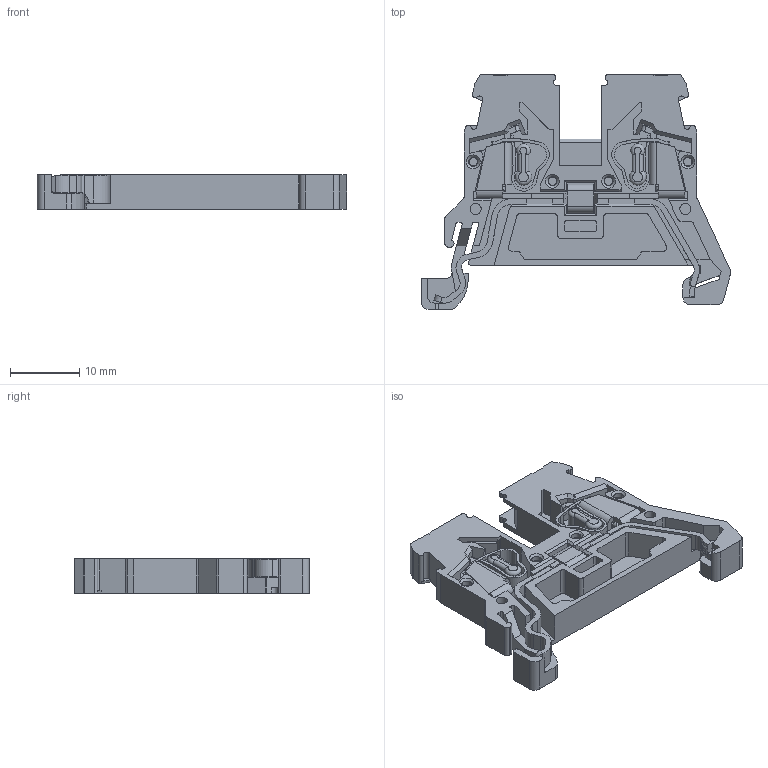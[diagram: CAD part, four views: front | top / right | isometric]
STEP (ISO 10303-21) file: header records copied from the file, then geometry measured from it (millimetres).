
FILE_DESCRIPTION (( 'STEP AP203' ), '1' );
FILE_NAME ('ﾊﾏﾐ1ﾌ-2,5ﾂ-2ﾂ-ﾐﾅ.STEP', '2019-03-01T13:09:13', ( '' ), ( '' ), 'SwSTEP 2.0', 'SolidWorks 2016', '' );
FILE_SCHEMA (( 'CONFIG_CONTROL_DESIGN' ));
Length unit declared in the file: millimetre
Products named in the file (1): ﾊﾏﾐ1ﾌ-2,5ﾂ-2ﾂ-ﾐﾅ
Bounding box: 44.7 x 33.9 x 5 mm (x, y, z)
Volume: 2625 mm3; surface area: 6005.7 mm2
Topology: 6 solids, 6 shells, 784 faces, 2190 edges, 1421 vertices
Faces by surface type: plane 516, cylinder 210, bspline 30, cone 14, torus 10, sphere 4
Full cylindrical faces by diameter (mm): 1.4 x4, 1.6 x6
Entity records: 26773 total; most frequent: CARTESIAN_POINT 6670, ORIENTED_EDGE 4324, DIRECTION 3964, EDGE_CURVE 2162, LINE 1610, VECTOR 1610, VERTEX_POINT 1419, AXIS2_PLACEMENT_3D 1177
